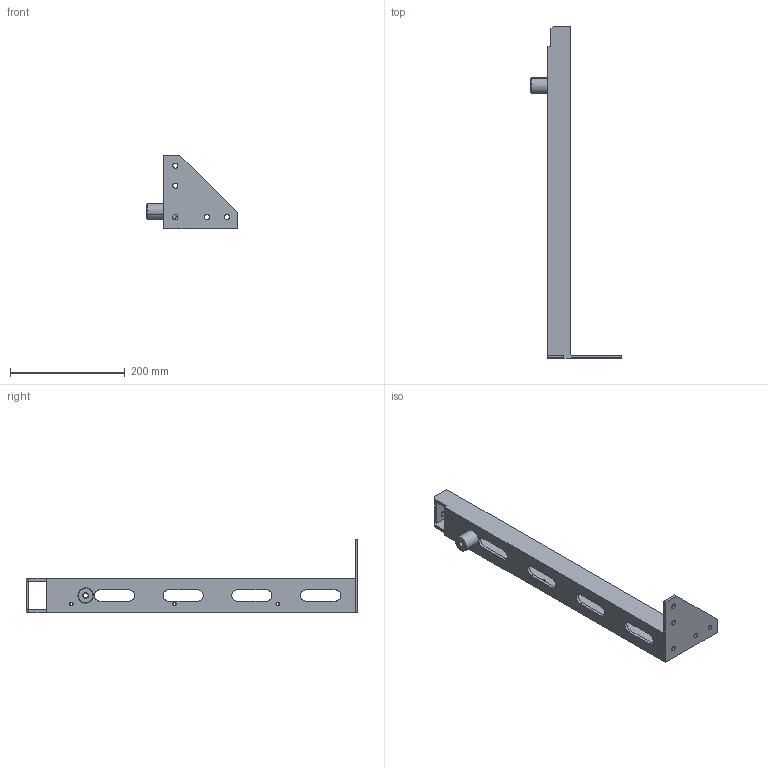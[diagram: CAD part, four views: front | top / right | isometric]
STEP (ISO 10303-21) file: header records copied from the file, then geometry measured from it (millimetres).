
FILE_DESCRIPTION (( 'STEP AP214' ), '1' );
FILE_NAME ('贅斃.301343.022 栺鍣罻.STEP', '2024-04-17T12:47:56', ( '' ), ( '' ), 'SwSTEP 2.0', 'SolidWorks 2019', '' );
FILE_SCHEMA (( 'AUTOMOTIVE_DESIGN' ));
Length unit declared in the file: millimetre
Products named in the file (5): 贅斃.713361.002 鎗鵻罻; ÂØÀÅ.746222.003 Øâåëëåð_574à; ÂØÀÅ.741114.019 Êîñûíêà; 贅斃.301343.022 栺鍣罻; 贅斃.741124.124 砑僔蠂縺
Assembly tree (4 placements, depth 2):
  贅斃.301343.022 栺鍣罻
    ÂØÀÅ.741114.019 Êîñûíêà
    ÂØÀÅ.746222.003 Øâåëëåð_574à
    贅斃.741124.124 砑僔蠂縺
    贅斃.713361.002 鎗鵻罻
Bounding box: 158 x 579 x 128 mm (x, y, z)
Volume: 418575 mm3; surface area: 176509.1 mm2
Topology: 4 solids, 4 shells, 106 faces, 271 edges, 174 vertices
Faces by surface type: cylinder 46, plane 40, cone 20
Entity records: 3681 total; most frequent: DIRECTION 609, CARTESIAN_POINT 558, ORIENTED_EDGE 542, EDGE_CURVE 271, AXIS2_PLACEMENT_3D 225, VERTEX_POINT 174, LINE 159, VECTOR 159
